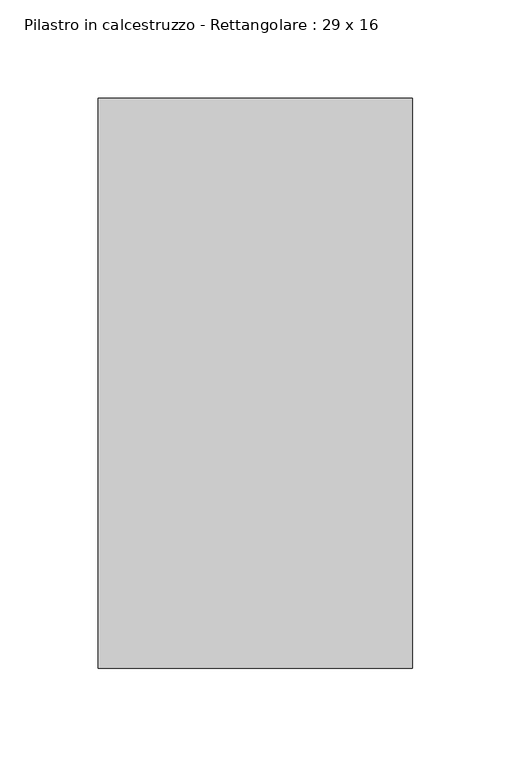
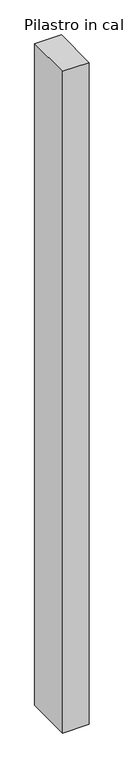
"""IFC4 building model written with IfcOpenShell, lengths in millimetres: column geometry, Pilastro in calcestruzzo - Rettangolare : 29 x 16."""

from ifc_helpers import new_model, si_unit, origin, origin_with_axes, place, context, project, spatial, polyline, outline, extrude, source, transform, mapped, element, save


def pilastro_in_calcestruzzo_rettangolare_29_x_16_73a5d9ca(model_context):
    return source(origin(), model_context, "Body", "SweptSolid", [
        extrude(outline(polyline([(80.0, 145.0), (80.0, -145.0), (-80.0, -145.0), (-80.0, 145.0), (80.0, 145.0)])), origin_with_axes(), (0.0, 0.0, 1.0), 4200.0),
    ])


if __name__ == "__main__":
    model = new_model("IFC4")
    model_context = context("Model", 3, world=origin())
    ifc_project = project(units=[si_unit("LENGTHUNIT", "METRE", prefix="MILLI")], contexts=[model_context])
    site = spatial("IfcSite", under=ifc_project)
    building = spatial("IfcBuilding", under=site)
    placement = place(None, origin())
    pilastro_in_calcestruzzo_rettangolare_29_x_16_shape = pilastro_in_calcestruzzo_rettangolare_29_x_16_73a5d9ca(model_context)
    element("IfcColumn", 1, ObjectType="Pilastro in calcestruzzo - Rettangolare : 29 x 16", at=placement, inside=building, context=model_context, shape_type="MappedRepresentation", body=[
        mapped(pilastro_in_calcestruzzo_rettangolare_29_x_16_shape, transform((0.0, 0.0, 0.0), x_axis=(1.0, 0.0, 0.0), y_axis=(0.0, 1.0, 0.0), z_axis=(0.0, 0.0, 1.0))),
    ])
    save(model, "model.ifc")
